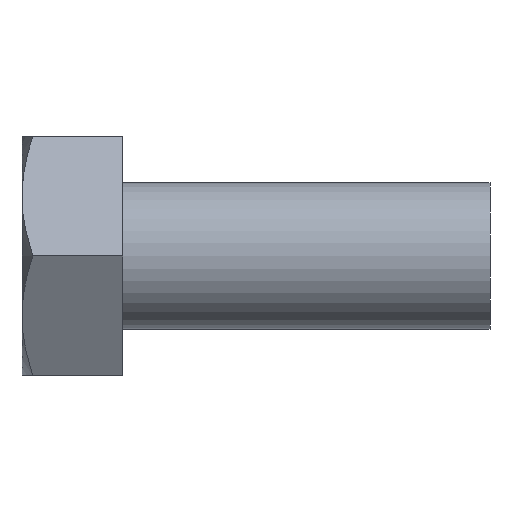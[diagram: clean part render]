
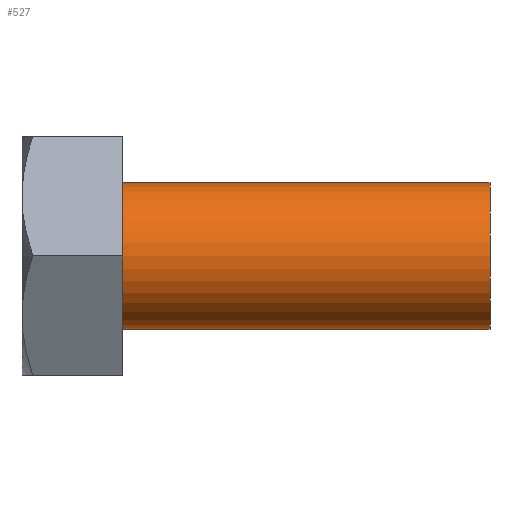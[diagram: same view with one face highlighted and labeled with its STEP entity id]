
A CAD part, front view. The second image highlights one B-rep face of the part: STEP entity #527.
In plain terms, the highlighted cylindrical face has radius 4 mm (diameter 8 mm), a partial arc.
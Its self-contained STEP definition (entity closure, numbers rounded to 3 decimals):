
#2 = DIRECTION ( 'NONE',  ( 1., 0., 0. ) ) ;
#298 = EDGE_CURVE ( 'NONE', #1290, #385, #1287, .T. ) ;
#385 = VERTEX_POINT ( 'NONE', #1129 ) ;
#386 = EDGE_CURVE ( 'NONE', #1075, #1290, #1132, .T. ) ;
#404 = ORIENTED_EDGE ( 'NONE', *, *, #386, .T. ) ;
#429 = EDGE_CURVE ( 'NONE', #491, #385, #689, .T. ) ;
#452 = ORIENTED_EDGE ( 'NONE', *, *, #512, .F. ) ;
#476 = ORIENTED_EDGE ( 'NONE', *, *, #429, .F. ) ;
#491 = VERTEX_POINT ( 'NONE', #1070 ) ;
#503 = EDGE_LOOP ( 'NONE', ( #452, #404, #528, #476 ) ) ;
#512 = EDGE_CURVE ( 'NONE', #1075, #491, #1209, .T. ) ;
#527 = ADVANCED_FACE ( 'NONE', ( #1271 ), #1272, .T. ) ;
#528 = ORIENTED_EDGE ( 'NONE', *, *, #298, .T. ) ;
#546 = CARTESIAN_POINT ( 'NONE',  ( 0., 0., -4. ) ) ;
#689 = CIRCLE ( 'NONE', #690, 4. ) ;
#690 = AXIS2_PLACEMENT_3D ( 'NONE', #691, #692, #693 ) ;
#691 = CARTESIAN_POINT ( 'NONE',  ( 20., 0., 0. ) ) ;
#692 = DIRECTION ( 'NONE',  ( 1., 0., 0. ) ) ;
#693 = DIRECTION ( 'NONE',  ( 0., 0., -1. ) ) ;
#1048 = CARTESIAN_POINT ( 'NONE',  ( 0., 0., 4. ) ) ;
#1070 = CARTESIAN_POINT ( 'NONE',  ( 20., 0., 4. ) ) ;
#1075 = VERTEX_POINT ( 'NONE', #1048 ) ;
#1129 = CARTESIAN_POINT ( 'NONE',  ( 20., 0., -4. ) ) ;
#1132 = CIRCLE ( 'NONE', #1133, 4. ) ;
#1133 = AXIS2_PLACEMENT_3D ( 'NONE', #1134, #1135, #1136 ) ;
#1134 = CARTESIAN_POINT ( 'NONE',  ( 0., 0., 0. ) ) ;
#1135 = DIRECTION ( 'NONE',  ( 1., 0., 0. ) ) ;
#1136 = DIRECTION ( 'NONE',  ( 0., 0., -1. ) ) ;
#1209 = LINE ( 'NONE', #1210, #1211 ) ;
#1210 = CARTESIAN_POINT ( 'NONE',  ( 0., 0., 4. ) ) ;
#1211 = VECTOR ( 'NONE', #1212, 1000. ) ;
#1212 = DIRECTION ( 'NONE',  ( 1., 0., 0. ) ) ;
#1271 = FACE_OUTER_BOUND ( 'NONE', #503, .T. ) ;
#1272 = CYLINDRICAL_SURFACE ( 'NONE', #1273, 4. ) ;
#1273 = AXIS2_PLACEMENT_3D ( 'NONE', #1274, #1275, #1276 ) ;
#1274 = CARTESIAN_POINT ( 'NONE',  ( 0., 0., 0. ) ) ;
#1275 = DIRECTION ( 'NONE',  ( 1., 0., 0. ) ) ;
#1276 = DIRECTION ( 'NONE',  ( 0., 0., -1. ) ) ;
#1287 = LINE ( 'NONE', #1288, #1289 ) ;
#1288 = CARTESIAN_POINT ( 'NONE',  ( 0., 0., -4. ) ) ;
#1289 = VECTOR ( 'NONE', #2, 1000. ) ;
#1290 = VERTEX_POINT ( 'NONE', #546 ) ;
